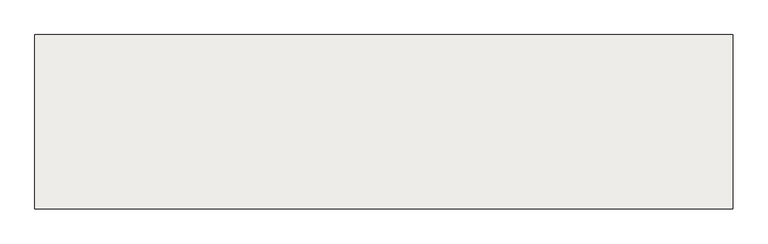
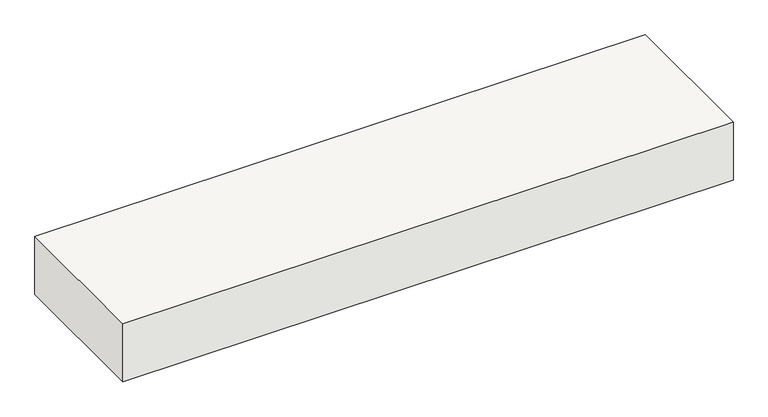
"""IFC4 building model written with IfcOpenShell, lengths in millimetres: slab geometry, Wall Foundation:16_SFO_ihwg beton_C30-35_500x200:317217 : Wall Foundation:16_SFO_ihwg beton_C30-35_500x200:317217."""

from ifc_helpers import new_model, si_unit, frame, origin, place, context, project, spatial, polyline, outline, extrude, source, transform, mapped, element, save


def slab_58631cd3(model_context):
    return source(origin(), model_context, "Body", "SweptSolid", [
        extrude(outline(polyline([(31439.8687149, -6498.9380074), (29439.8687149, -6498.9380074), (29439.8687149, -5998.9380074), (31439.8687149, -5998.9380074), (31439.8687149, -6498.9380074)])), frame((0.0, 0.0, -200.0), z_axis=(0.0, 0.0, 1.0), x_axis=(1.0, 0.0, 0.0)), (0.0, 0.0, 1.0), 200.0),
    ])


if __name__ == "__main__":
    model = new_model("IFC4")
    model_context = context("Model", 3, world=origin())
    ifc_project = project(units=[si_unit("LENGTHUNIT", "METRE", prefix="MILLI")], contexts=[model_context])
    site = spatial("IfcSite", under=ifc_project)
    building = spatial("IfcBuilding", under=site)
    placement = place(None, origin())
    slab_shape = slab_58631cd3(model_context)
    element("IfcSlab", 1, ObjectType="Wall Foundation:16_SFO_ihwg beton_C30-35_500x200:317217 : Wall Foundation:16_SFO_ihwg beton_C30-35_500x200:317217", at=placement, inside=building, context=model_context, shape_type="MappedRepresentation", body=[
        mapped(slab_shape, transform((0.0, 0.0, 0.0), x_axis=(1.0, 0.0, 0.0), y_axis=(0.0, 1.0, 0.0), z_axis=(0.0, 0.0, 1.0))),
    ])
    save(model, "model.ifc")
